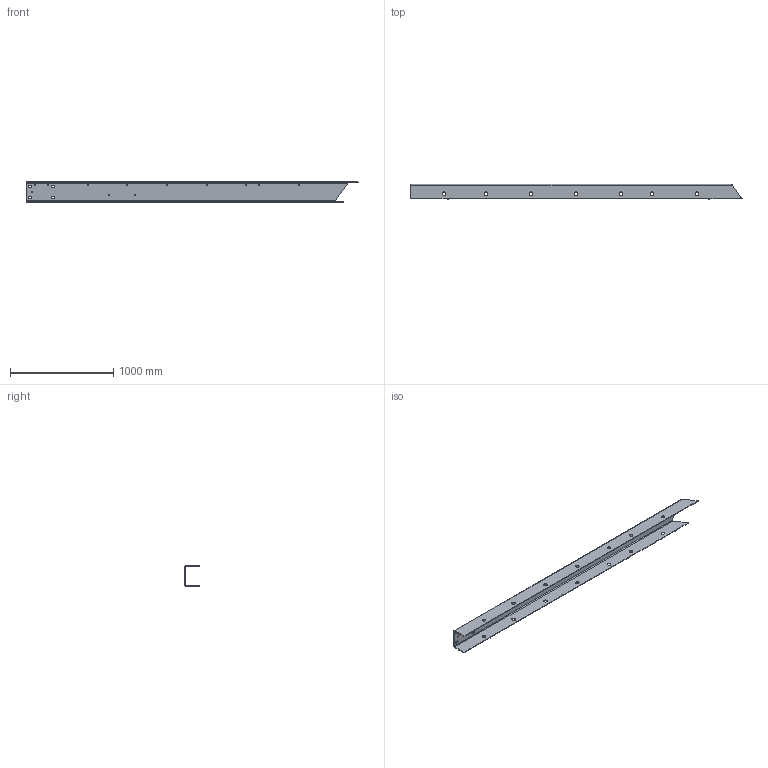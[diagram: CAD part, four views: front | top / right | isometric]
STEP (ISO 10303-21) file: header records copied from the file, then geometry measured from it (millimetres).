
FILE_DESCRIPTION(/* description */ (''),/* implementation_level */ '2;1');
FILE_NAME(/* name */ '6488152ugm000~00.stp',/* time_stamp */ '2021-01-13T10:38:31+01:00',/* author */ (''),/* organization */ (''),/* preprocessor_version */ 'ST-DEVELOPER v16',/* originating_system */ 'SIEMENS PLM Software NX 11.0',/* authorisation */ '');
FILE_SCHEMA (('AUTOMOTIVE_DESIGN { 1 0 10303 214 0 1 1 1 }'));
Length unit declared in the file: millimetre
Products named in the file (1): 6488152ugm000~00
Bounding box: 3216.63 x 146 x 200 mm (x, y, z)
Volume: 8361939.7 mm3; surface area: 2846009.7 mm2
Topology: 1 solids, 1 shells, 269 faces, 801 edges, 534 vertices
Faces by surface type: cylinder 138, plane 129, bspline 2
Full cylindrical faces by diameter (mm): 35 x14
Entity records: 9245 total; most frequent: CARTESIAN_POINT 1735, DIRECTION 1575, ORIENTED_EDGE 1560, EDGE_CURVE 780, AXIS2_PLACEMENT_3D 539, VERTEX_POINT 527, LINE 497, VECTOR 497
